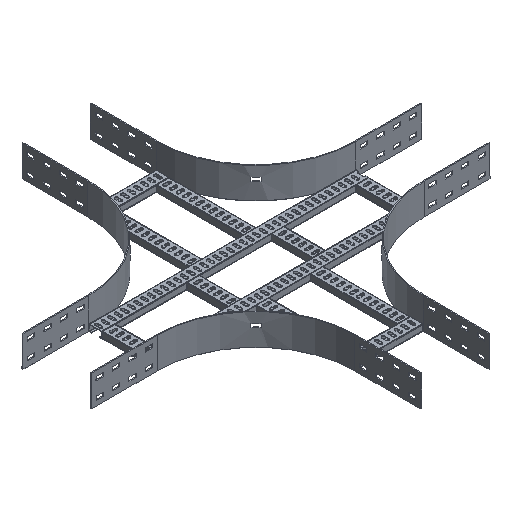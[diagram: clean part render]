
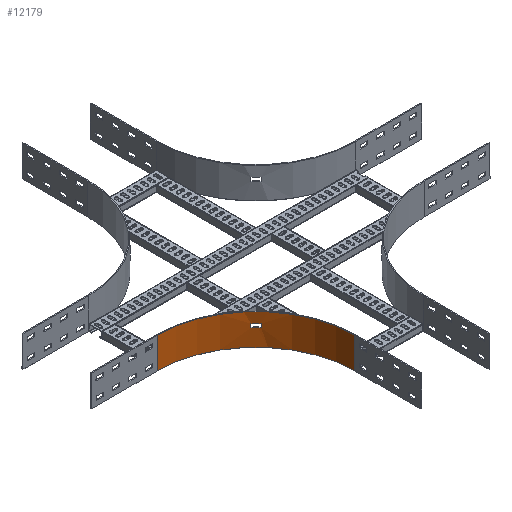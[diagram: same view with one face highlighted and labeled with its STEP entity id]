
A CAD part, isometric view. The second image highlights one B-rep face of the part: STEP entity #12179.
In plain terms, the highlighted cylindrical face has radius 300 mm (diameter 600 mm), a partial arc.
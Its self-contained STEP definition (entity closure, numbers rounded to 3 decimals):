
#343=FACE_BOUND('',#1749,.T.);
#567=CYLINDRICAL_SURFACE('',#12835,300.);
#612=CIRCLE('',#12827,300.);
#617=CIRCLE('',#12834,300.);
#618=CIRCLE('',#12836,300.);
#619=CIRCLE('',#12837,300.);
#1119=FACE_OUTER_BOUND('',#1748,.T.);
#1748=EDGE_LOOP('',(#8252,#8253,#8254,#8255));
#1749=EDGE_LOOP('',(#8256,#8257,#8258,#8259));
#2599=LINE('',#17023,#3899);
#2601=LINE('',#17029,#3901);
#2606=LINE('',#17053,#3906);
#2607=LINE('',#17056,#3907);
#3899=VECTOR('',#13819,304.8);
#3901=VECTOR('',#13823,304.8);
#3906=VECTOR('',#13850,304.8);
#3907=VECTOR('',#13853,304.8);
#5196=VERTEX_POINT('',#17016);
#5199=VERTEX_POINT('',#17021);
#5201=VERTEX_POINT('',#17026);
#5202=VERTEX_POINT('',#17028);
#5208=VERTEX_POINT('',#17049);
#5209=VERTEX_POINT('',#17050);
#5210=VERTEX_POINT('',#17052);
#5211=VERTEX_POINT('',#17054);
#6407=EDGE_CURVE('',#5199,#5196,#2599,.T.);
#6409=EDGE_CURVE('',#5201,#5202,#2601,.T.);
#6412=EDGE_CURVE('',#5196,#5201,#612,.T.);
#6419=EDGE_CURVE('',#5202,#5199,#617,.T.);
#6420=EDGE_CURVE('',#5208,#5209,#618,.T.);
#6421=EDGE_CURVE('',#5209,#5210,#2606,.T.);
#6422=EDGE_CURVE('',#5210,#5211,#619,.T.);
#6423=EDGE_CURVE('',#5211,#5208,#2607,.T.);
#8252=ORIENTED_EDGE('',*,*,#6407,.F.);
#8253=ORIENTED_EDGE('',*,*,#6419,.F.);
#8254=ORIENTED_EDGE('',*,*,#6409,.F.);
#8255=ORIENTED_EDGE('',*,*,#6412,.F.);
#8256=ORIENTED_EDGE('',*,*,#6420,.T.);
#8257=ORIENTED_EDGE('',*,*,#6421,.T.);
#8258=ORIENTED_EDGE('',*,*,#6422,.T.);
#8259=ORIENTED_EDGE('',*,*,#6423,.T.);
#12179=ADVANCED_FACE('',(#1119,#343),#567,.F.);
#12827=AXIS2_PLACEMENT_3D('',#17034,#13828,#13829);
#12834=AXIS2_PLACEMENT_3D('',#17047,#13844,#13845);
#12835=AXIS2_PLACEMENT_3D('',#17048,#13846,#13847);
#12836=AXIS2_PLACEMENT_3D('',#17051,#13848,#13849);
#12837=AXIS2_PLACEMENT_3D('',#17055,#13851,#13852);
#13819=DIRECTION('',(0.,0.,1.));
#13823=DIRECTION('',(0.,0.,-1.));
#13828=DIRECTION('center_axis',(0.,0.,-1.));
#13829=DIRECTION('ref_axis',(0.,1.,0.));
#13844=DIRECTION('center_axis',(0.,0.,1.));
#13845=DIRECTION('ref_axis',(0.,1.,0.));
#13846=DIRECTION('center_axis',(0.,0.,-1.));
#13847=DIRECTION('ref_axis',(0.,1.,0.));
#13848=DIRECTION('center_axis',(0.,0.,-1.));
#13849=DIRECTION('ref_axis',(0.,1.,0.));
#13850=DIRECTION('',(0.,0.,-1.));
#13851=DIRECTION('center_axis',(0.,0.,1.));
#13852=DIRECTION('ref_axis',(0.,1.,0.));
#13853=DIRECTION('',(0.,0.,1.));
#17016=CARTESIAN_POINT('',(-405.5,-105.5,47.));
#17021=CARTESIAN_POINT('',(-405.5,-105.5,-47.));
#17023=CARTESIAN_POINT('',(-405.5,-105.5,-47.));
#17026=CARTESIAN_POINT('',(-105.5,-405.5,47.));
#17028=CARTESIAN_POINT('',(-105.5,-405.5,-47.));
#17029=CARTESIAN_POINT('',(-105.5,-405.5,47.));
#17034=CARTESIAN_POINT('Origin',(-405.5,-405.5,47.));
#17047=CARTESIAN_POINT('Origin',(-405.5,-405.5,-47.));
#17048=CARTESIAN_POINT('Origin',(-405.5,-405.5,0.));
#17049=CARTESIAN_POINT('',(-201.26,-185.759,15.5));
#17050=CARTESIAN_POINT('',(-185.706,-201.318,15.5));
#17051=CARTESIAN_POINT('Origin',(-405.5,-405.5,15.5));
#17052=CARTESIAN_POINT('',(-185.706,-201.318,4.5));
#17053=CARTESIAN_POINT('',(-185.706,-201.318,15.5));
#17054=CARTESIAN_POINT('',(-201.26,-185.759,4.5));
#17055=CARTESIAN_POINT('Origin',(-405.5,-405.5,4.5));
#17056=CARTESIAN_POINT('',(-201.26,-185.759,4.5));
